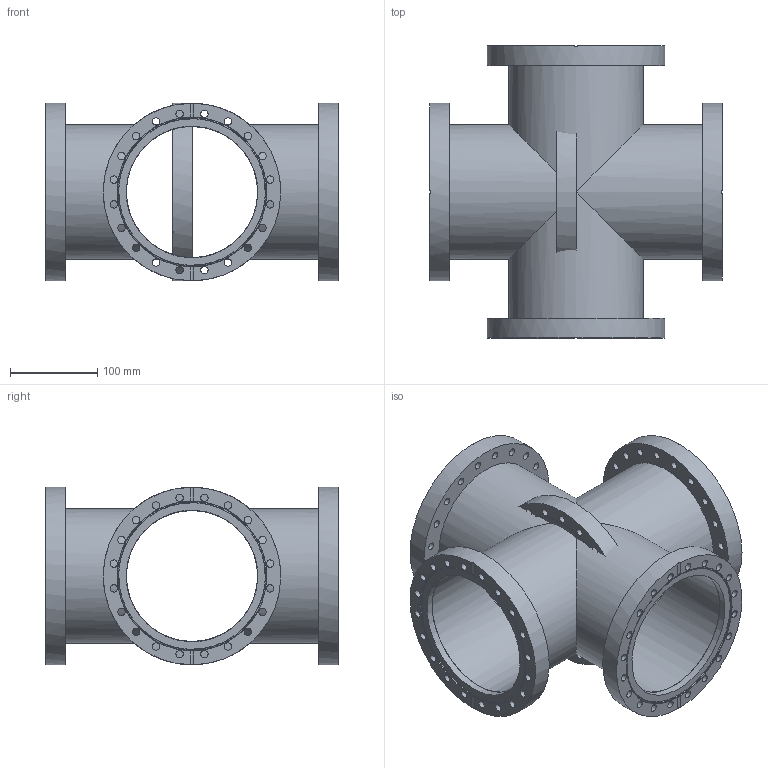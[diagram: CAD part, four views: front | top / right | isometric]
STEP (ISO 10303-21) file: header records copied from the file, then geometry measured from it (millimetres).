
FILE_DESCRIPTION( ( 'Unknown' ), '1' );
FILE_NAME( 'X:/Daten ( aktueller Bestand )/Projekte und Zeichnungen/Solid Edge/14 CF Verzweigungen/CF-Kreuzstück, Flansche fest/7115F.stp', 'Unknown', ( 'Unknown' ), ( 'Unknown' ), 'XStep 1.0', 'Unknown', ' ' );
FILE_SCHEMA( ( 'automotive_design' ) );
Length unit declared in the file: millimetre
Products named in the file (3): Assem1; 7115-1; 7515F
Bounding box: 334 x 334 x 203 mm (x, y, z)
Volume: 2242303.4 mm3; surface area: 1160769.9 mm2
Topology: 7 solids, 7 shells, 189 faces, 600 edges, 426 vertices
Faces by surface type: cylinder 146, plane 33, cone 10
Full cylindrical faces by diameter (mm): 8.4 x100, 150 x8, 150.5 x5, 154 x8, 154.5 x5, 171 x5, 203 x5
Entity records: 1664 total; most frequent: CARTESIAN_POINT 263, DIRECTION 242, ORIENTED_EDGE 152, EDGE_LOOP 126, AXIS2_PLACEMENT_3D 119, FACE_OUTER_BOUND 77, EDGE_CURVE 76, VERTEX_POINT 68
